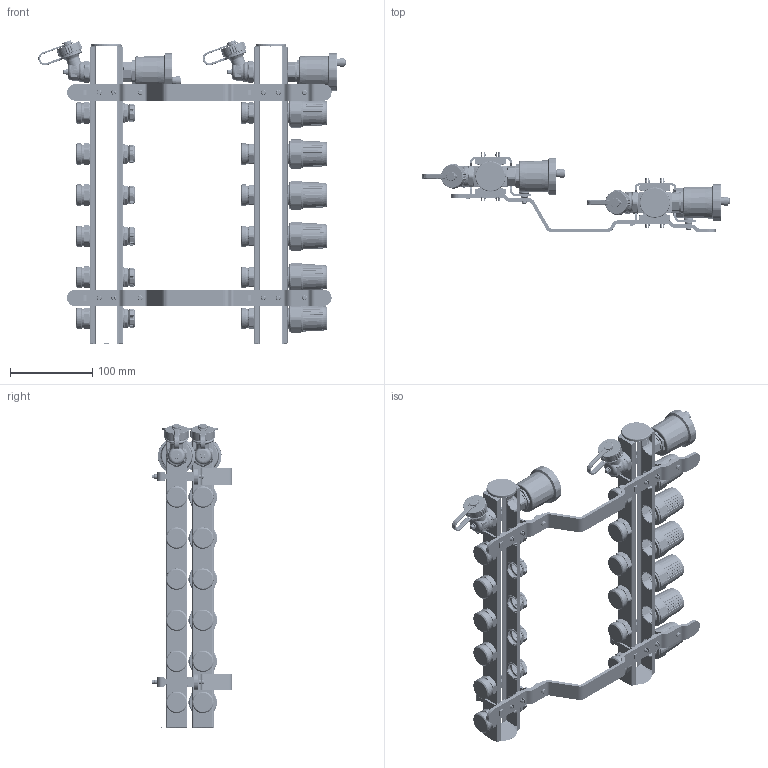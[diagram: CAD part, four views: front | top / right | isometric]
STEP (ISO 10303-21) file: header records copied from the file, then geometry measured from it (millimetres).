
FILE_DESCRIPTION(('STEP AP203'), '1');
FILE_NAME('VTc.594.EMNX.0606', '2025-11-26T11:54:07', ('verevichevva'), ('Vesta'), 'C3D Converter', 'C3D Toolkit', '');
FILE_SCHEMA(('CONFIG_CONTROL_DESIGN'));
Length unit declared in the file: millimetre
Products named in the file (1): ВР.622621.158.000 СБ
Bounding box: 374.1 x 97.53 x 369.67 mm (x, y, z)
Surface area: 258345.7 mm2 (no closed solid volume)
Topology: 0 solids, 5 shells, 11001 faces, 28853 edges, 17617 vertices
Faces by surface type: cylinder 3259, bspline 2692, plane 2232, torus 1469, cone 1073, sphere 276
Full cylindrical faces by diameter (mm): 4.2 x2, 6 x12, 6.8 x4, 7 x2, 8.352 x4, 8.4 x4, 9.5 x2, 11.2 x2, 11.5 x2, 12 x4, 16 x2, 17 x6, 18 x20, 20.8 x6, 21.5 x6, 23.3 x12, 24.5 x6, 25 x14, 25.8 x2, 26.1 x12, 28.4 x2, 33 x6, 34 x6
Entity records: 629662 total; most frequent: CARTESIAN_POINT 391936, ORIENTED_EDGE 56196, DIRECTION 39504, EDGE_CURVE 28108, VERTEX_POINT 17608, AXIS2_PLACEMENT_3D 16604, B_SPLINE_CURVE_WITH_KNOTS 13404, EDGE_LOOP 11716
